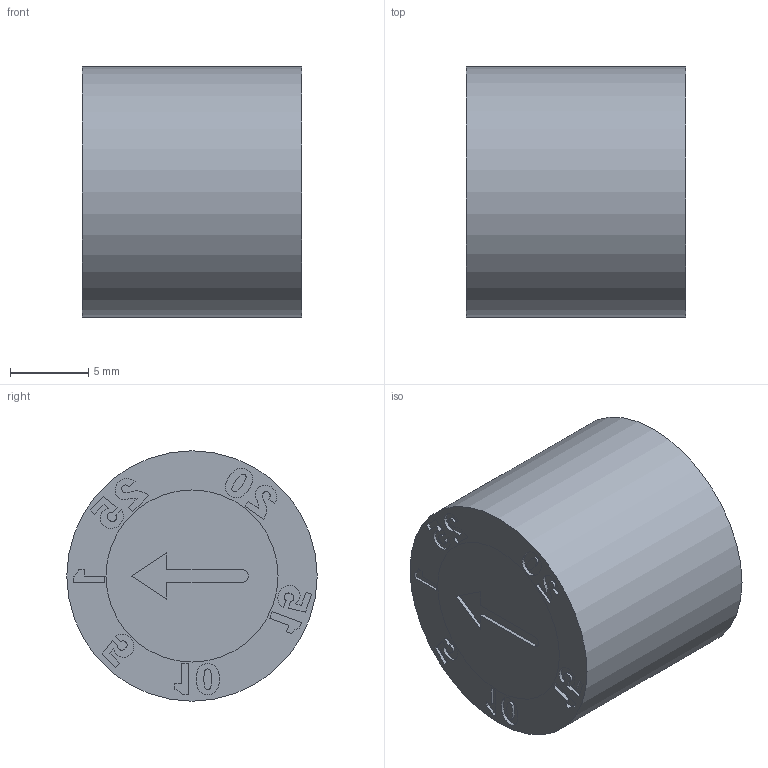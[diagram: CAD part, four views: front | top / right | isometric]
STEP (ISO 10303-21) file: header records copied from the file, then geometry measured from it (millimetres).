
FILE_DESCRIPTION( ( 'STEP AP203' ), ' ' );
FILE_NAME( 'p:/temp/worker_129/4312_692/app_64_12017012413041871704854260eae72_000000_00_00_000000/format_0/UOD16.stp', '2017-01-24T12:04:19', ( '' ), ( '' ), ' ', 'PARTsolutions', ' ' );
FILE_SCHEMA( ( 'CONFIG_CONTROL_DESIGN' ) );
Length unit declared in the file: millimetre
Products named in the file (3): UOD16; _UOD161; _UOD162
Assembly tree (2 placements, depth 2):
  UOD16
    _UOD161
    _UOD162
Bounding box: 14 x 16 x 16 mm (x, y, z)
Volume: 2063.9 mm3; surface area: 1965.5 mm2
Topology: 2 solids, 2 shells, 137 faces, 342 edges, 228 vertices
Faces by surface type: plane 81, cylinder 56
Full cylindrical faces by diameter (mm): 4.56 x2, 9.12 x2, 11 x4, 16 x1
Entity records: 4175 total; most frequent: DIRECTION 725, CARTESIAN_POINT 701, ORIENTED_EDGE 666, EDGE_CURVE 333, AXIS2_PLACEMENT_3D 252, VERTEX_POINT 228, LINE 221, VECTOR 221
